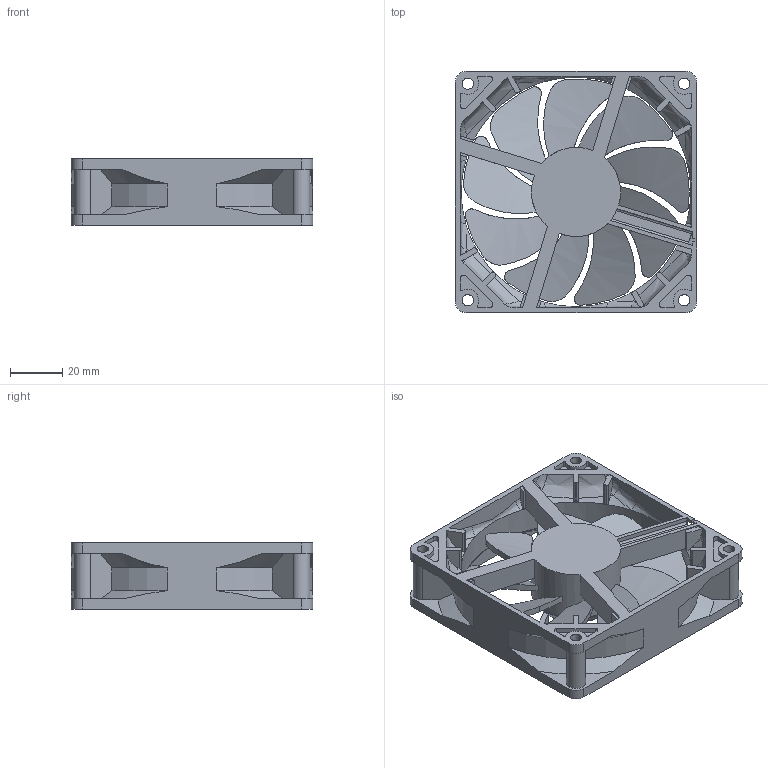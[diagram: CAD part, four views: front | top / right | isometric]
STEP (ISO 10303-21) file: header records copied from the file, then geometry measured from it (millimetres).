
FILE_DESCRIPTION (( 'STEP AP203' ), '1' );
FILE_NAME ('9225 S LIBBED.STEP', '2017-03-09T02:23:45', ( '' ), ( '' ), 'SwSTEP 2.0', 'SolidWorks 2017', '' );
FILE_SCHEMA (( 'CONFIG_CONTROL_DESIGN' ));
Length unit declared in the file: millimetre
Products named in the file (1): 9225 S LIBBED
Bounding box: 92 x 92 x 25.2 mm (x, y, z)
Volume: 70926.3 mm3; surface area: 43376.9 mm2
Topology: 1 solids, 1 shells, 468 faces, 1282 edges, 828 vertices
Faces by surface type: cylinder 203, plane 144, bspline 62, cone 49, torus 10
Entity records: 17895 total; most frequent: CARTESIAN_POINT 6574, ORIENTED_EDGE 2556, DIRECTION 2096, EDGE_CURVE 1278, VERTEX_POINT 827, AXIS2_PLACEMENT_3D 771, VECTOR 554, LINE 554
